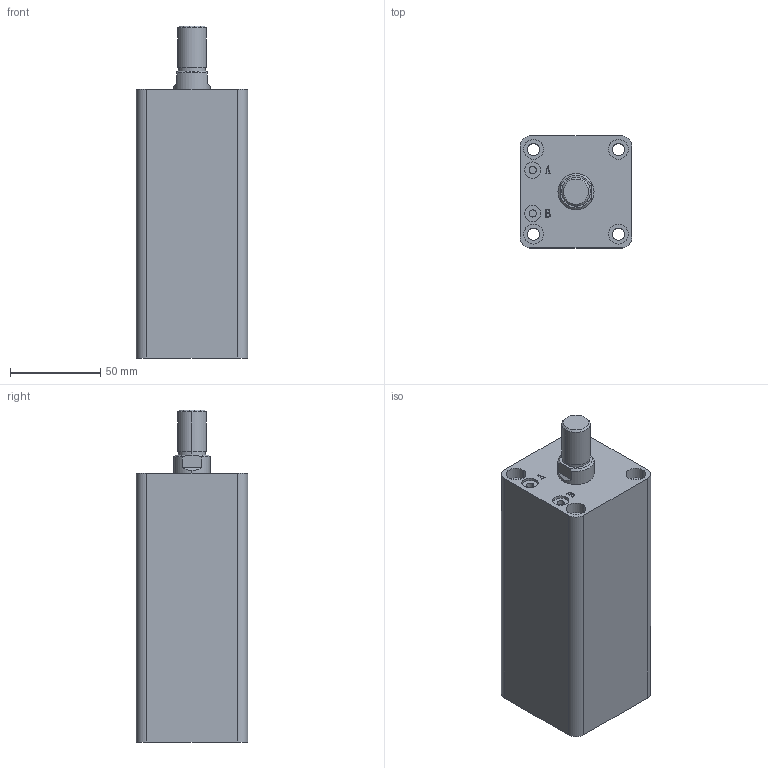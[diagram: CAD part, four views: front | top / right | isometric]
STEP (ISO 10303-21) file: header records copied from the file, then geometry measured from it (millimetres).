
FILE_DESCRIPTION (( 'STEP AP203' ), '1' );
FILE_NAME ('HTB-SDMA32-95W.STEP', '2019-10-07T11:46:04', ( '微软用户' ), ( '微软中国' ), 'SwSTEP 2.0', 'SolidWorks 2012', '' );
FILE_SCHEMA (( 'CONFIG_CONTROL_DESIGN' ));
Length unit declared in the file: millimetre
Products named in the file (3): HTB-SDMA32-95W; HTB-SDMA32-95W活塞杆; HTB-SDMA32-95掛极
Assembly tree (2 placements, depth 2):
  HTB-SDMA32-95W
    HTB-SDMA32-95掛极
    HTB-SDMA32-95W活塞杆
Bounding box: 62 x 62 x 184 mm (x, y, z)
Volume: 504331.3 mm3; surface area: 83370.2 mm2
Topology: 2 solids, 2 shells, 141 faces, 337 edges, 222 vertices
Faces by surface type: plane 67, cylinder 48, bspline 16, torus 6, cone 4
Entity records: 5176 total; most frequent: CARTESIAN_POINT 1593, ORIENTED_EDGE 674, DIRECTION 669, EDGE_CURVE 337, AXIS2_PLACEMENT_3D 242, VERTEX_POINT 222, VECTOR 185, LINE 185
